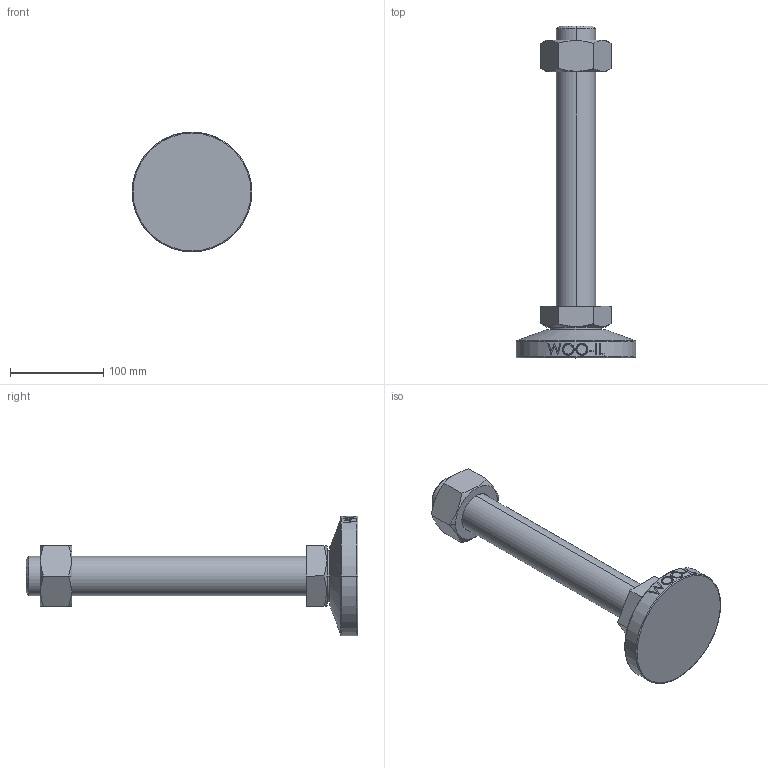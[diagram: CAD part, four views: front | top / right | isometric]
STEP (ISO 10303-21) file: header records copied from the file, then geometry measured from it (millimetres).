
FILE_DESCRIPTION (( 'STEP AP214' ), '1' );
FILE_NAME ('WTr42-128-Tr42-300.step', '2021-02-02T06:07:49', ( '' ), ( '' ), 'SwSTEP 2.0', 'SolidWorks 2019', '' );
FILE_SCHEMA (( 'AUTOMOTIVE_DESIGN' ));
Length unit declared in the file: millimetre
Products named in the file (2): WTr42-128-Tr42-300
Bounding box: 128 x 355 x 128 mm (x, y, z)
Volume: 899511.7 mm3; surface area: 101302.5 mm2
Topology: 3 solids, 3 shells, 97 faces, 225 edges, 144 vertices
Faces by surface type: plane 47, cylinder 16, bspline 16, cone 14, torus 4
Entity records: 4494 total; most frequent: CARTESIAN_POINT 2350, ORIENTED_EDGE 450, DIRECTION 387, EDGE_CURVE 225, AXIS2_PLACEMENT_3D 145, VERTEX_POINT 144, EDGE_LOOP 109, ADVANCED_FACE 97
